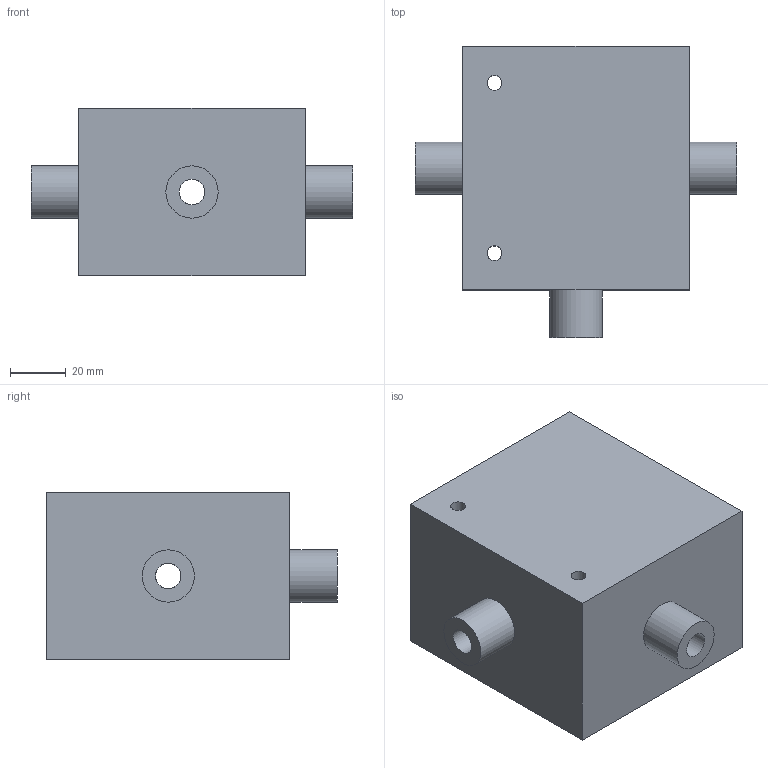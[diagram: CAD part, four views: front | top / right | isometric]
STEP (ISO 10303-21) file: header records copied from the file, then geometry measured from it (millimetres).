
FILE_DESCRIPTION(('Mechanical CAD reference from nasji.com'),'2;1');
FILE_NAME('NASJI.step','',(''),(''),'','NASJI distribution','');
FILE_SCHEMA(('AUTOMOTIVE_DESIGN { 1 0 10303 214 1 1 1 1 }'));
Length unit declared in the file: millimetre
Products named in the file (1): Open CASCADE STEP translator 7.8 168
Bounding box: 114.8 x 103.9 x 59.8 mm (x, y, z)
Volume: 417533.6 mm3; surface area: 44660.2 mm2
Topology: 1 solids, 1 shells, 21 faces, 49 edges, 31 vertices
Faces by surface type: cylinder 12, plane 9
Full cylindrical faces by diameter (mm): 5.3 x2, 9.1 x3, 18.7 x3
Entity records: 1401 total; most frequent: CARTESIAN_POINT 388, DIRECTION 190, ORIENTED_EDGE 98, PCURVE 98, DEFINITIONAL_REPRESENTATION 98, LINE 91, VECTOR 91, EDGE_CURVE 49
